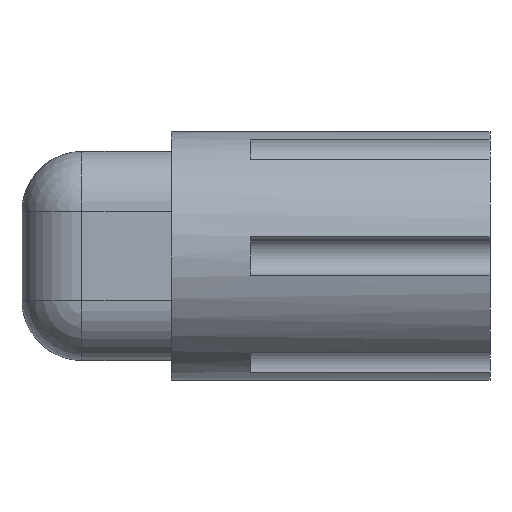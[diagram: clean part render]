
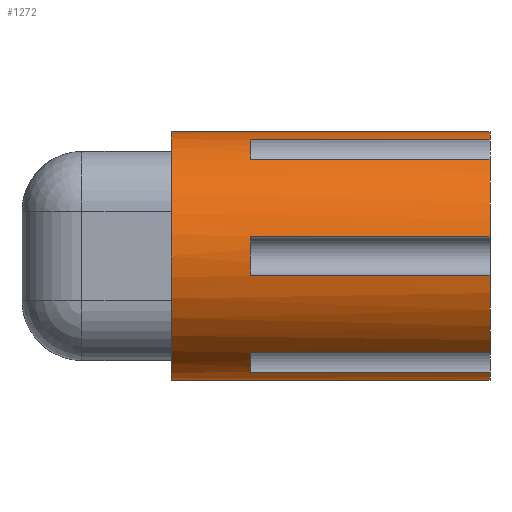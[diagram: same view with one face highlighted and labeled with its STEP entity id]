
A CAD part, front view. The second image highlights one B-rep face of the part: STEP entity #1272.
In plain terms, the highlighted cylindrical face has radius 9.906 mm (diameter 19.812 mm), a partial arc.
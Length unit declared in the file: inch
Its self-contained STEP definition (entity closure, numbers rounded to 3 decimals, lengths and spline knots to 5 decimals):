
#19 = LINE ( 'NONE', #909, #144 ) ;
#20 = VECTOR ( 'NONE', #1877, 39.37008 ) ;
#26 = LINE ( 'NONE', #1746, #295 ) ;
#38 = CIRCLE ( 'NONE', #1232, 0.39 ) ;
#75 = CYLINDRICAL_SURFACE ( 'NONE', #1545, 0.39 ) ;
#77 = VERTEX_POINT ( 'NONE', #512 ) ;
#94 = VECTOR ( 'NONE', #538, 39.37008 ) ;
#107 = VECTOR ( 'NONE', #1882, 39.37008 ) ;
#110 = LINE ( 'NONE', #1957, #139 ) ;
#132 = CIRCLE ( 'NONE', #1498, 0.39 ) ;
#136 = VECTOR ( 'NONE', #1890, 39.37008 ) ;
#139 = VECTOR ( 'NONE', #1929, 39.37008 ) ;
#140 = CIRCLE ( 'NONE', #1502, 0.39 ) ;
#141 = VERTEX_POINT ( 'NONE', #577 ) ;
#143 = VERTEX_POINT ( 'NONE', #689 ) ;
#144 = VECTOR ( 'NONE', #491, 39.37008 ) ;
#161 = VERTEX_POINT ( 'NONE', #662 ) ;
#165 = VERTEX_POINT ( 'NONE', #697 ) ;
#179 = VERTEX_POINT ( 'NONE', #640 ) ;
#181 = LINE ( 'NONE', #1795, #136 ) ;
#183 = CIRCLE ( 'NONE', #1252, 0.39 ) ;
#186 = CIRCLE ( 'NONE', #1477, 0.39 ) ;
#218 = LINE ( 'NONE', #1878, #20 ) ;
#219 = LINE ( 'NONE', #712, #94 ) ;
#228 = VECTOR ( 'NONE', #696, 39.37008 ) ;
#295 = VECTOR ( 'NONE', #1940, 39.37008 ) ;
#310 = LINE ( 'NONE', #1748, #107 ) ;
#316 = VERTEX_POINT ( 'NONE', #854 ) ;
#319 = VERTEX_POINT ( 'NONE', #849 ) ;
#338 = CIRCLE ( 'NONE', #1478, 0.39 ) ;
#342 = LINE ( 'NONE', #797, #228 ) ;
#364 = CIRCLE ( 'NONE', #1190, 0.39 ) ;
#373 = VERTEX_POINT ( 'NONE', #537 ) ;
#379 = FACE_OUTER_BOUND ( 'NONE', #892, .T. ) ;
#380 = CIRCLE ( 'NONE', #1474, 0.39 ) ;
#409 = DIRECTION ( 'NONE',  ( 1., 0., 0. ) ) ;
#410 = CARTESIAN_POINT ( 'NONE',  ( 0., 0., 0. ) ) ;
#419 = CARTESIAN_POINT ( 'NONE',  ( -1., 0., 0.39 ) ) ;
#421 = DIRECTION ( 'NONE',  ( 0., 0., -1. ) ) ;
#491 = DIRECTION ( 'NONE',  ( -1., 0., 0. ) ) ;
#512 = CARTESIAN_POINT ( 'NONE',  ( -0.75, -0.14003, 0.364 ) ) ;
#514 = CARTESIAN_POINT ( 'NONE',  ( -0.75, -0.14003, -0.364 ) ) ;
#537 = CARTESIAN_POINT ( 'NONE',  ( -0.75, -0.24522, -0.30326 ) ) ;
#538 = DIRECTION ( 'NONE',  ( 1., 0., 0. ) ) ;
#558 = DIRECTION ( 'NONE',  ( 0., 0., -1. ) ) ;
#568 = CARTESIAN_POINT ( 'NONE',  ( 0., 0., 0. ) ) ;
#577 = CARTESIAN_POINT ( 'NONE',  ( 0., 0., 0.39 ) ) ;
#624 = DIRECTION ( 'NONE',  ( 1., 0., 0. ) ) ;
#640 = CARTESIAN_POINT ( 'NONE',  ( -0.75, -0.38524, 0.06073 ) ) ;
#662 = CARTESIAN_POINT ( 'NONE',  ( -0.75, -0.24522, 0.30326 ) ) ;
#689 = CARTESIAN_POINT ( 'NONE',  ( 0., -0.24522, -0.30326 ) ) ;
#696 = DIRECTION ( 'NONE',  ( 1., 0., 0. ) ) ;
#697 = CARTESIAN_POINT ( 'NONE',  ( 0., 0., -0.39 ) ) ;
#707 = CARTESIAN_POINT ( 'NONE',  ( 0., -0.38524, 0.06073 ) ) ;
#708 = CARTESIAN_POINT ( 'NONE',  ( 0., -0.38524, -0.06073 ) ) ;
#712 = CARTESIAN_POINT ( 'NONE',  ( -0.375, -0.38524, -0.06073 ) ) ;
#716 = VERTEX_POINT ( 'NONE', #419 ) ;
#732 = ORIENTED_EDGE ( 'NONE', *, *, #1565, .T. ) ;
#744 = ORIENTED_EDGE ( 'NONE', *, *, #1414, .F. ) ;
#747 = VERTEX_POINT ( 'NONE', #955 ) ;
#796 = VERTEX_POINT ( 'NONE', #810 ) ;
#797 = CARTESIAN_POINT ( 'NONE',  ( -0.375, -0.24522, 0.30326 ) ) ;
#810 = CARTESIAN_POINT ( 'NONE',  ( 0., -0.24522, 0.30326 ) ) ;
#811 = ORIENTED_EDGE ( 'NONE', *, *, #1394, .T. ) ;
#848 = ORIENTED_EDGE ( 'NONE', *, *, #1404, .T. ) ;
#849 = CARTESIAN_POINT ( 'NONE',  ( -0.75, -0.38524, -0.06073 ) ) ;
#854 = CARTESIAN_POINT ( 'NONE',  ( 0., -0.14003, 0.364 ) ) ;
#887 = ORIENTED_EDGE ( 'NONE', *, *, #1432, .F. ) ;
#892 = EDGE_LOOP ( 'NONE', ( #1161, #848, #1132, #1020, #744, #999, #1128, #911, #946, #811, #1037, #1167, #1154, #732, #1068, #887 ) ) ;
#909 = CARTESIAN_POINT ( 'NONE',  ( -0.375, -0.24522, -0.30326 ) ) ;
#911 = ORIENTED_EDGE ( 'NONE', *, *, #1365, .F. ) ;
#920 = CARTESIAN_POINT ( 'NONE',  ( -1., 0., -0.39 ) ) ;
#929 = VERTEX_POINT ( 'NONE', #920 ) ;
#946 = ORIENTED_EDGE ( 'NONE', *, *, #1354, .F. ) ;
#955 = CARTESIAN_POINT ( 'NONE',  ( 0., -0.14003, -0.364 ) ) ;
#999 = ORIENTED_EDGE ( 'NONE', *, *, #1380, .T. ) ;
#1019 = VERTEX_POINT ( 'NONE', #514 ) ;
#1020 = ORIENTED_EDGE ( 'NONE', *, *, #1585, .F. ) ;
#1037 = ORIENTED_EDGE ( 'NONE', *, *, #1567, .F. ) ;
#1053 = VERTEX_POINT ( 'NONE', #707 ) ;
#1068 = ORIENTED_EDGE ( 'NONE', *, *, #1370, .F. ) ;
#1128 = ORIENTED_EDGE ( 'NONE', *, *, #1351, .F. ) ;
#1132 = ORIENTED_EDGE ( 'NONE', *, *, #1379, .T. ) ;
#1154 = ORIENTED_EDGE ( 'NONE', *, *, #1361, .F. ) ;
#1161 = ORIENTED_EDGE ( 'NONE', *, *, #1420, .F. ) ;
#1162 = VERTEX_POINT ( 'NONE', #708 ) ;
#1167 = ORIENTED_EDGE ( 'NONE', *, *, #1386, .F. ) ;
#1190 = AXIS2_PLACEMENT_3D ( 'NONE', #1688, #1678, #1681 ) ;
#1232 = AXIS2_PLACEMENT_3D ( 'NONE', #1862, #1951, #1716 ) ;
#1252 = AXIS2_PLACEMENT_3D ( 'NONE', #1920, #1953, #1702 ) ;
#1272 = ADVANCED_FACE ( 'NONE', ( #379 ), #75, .T. ) ;
#1351 = EDGE_CURVE ( 'NONE', #143, #373, #19, .T. ) ;
#1354 = EDGE_CURVE ( 'NONE', #319, #1162, #219, .T. ) ;
#1361 = EDGE_CURVE ( 'NONE', #161, #796, #342, .T. ) ;
#1365 = EDGE_CURVE ( 'NONE', #1162, #143, #140, .T. ) ;
#1370 = EDGE_CURVE ( 'NONE', #316, #77, #110, .T. ) ;
#1379 = EDGE_CURVE ( 'NONE', #929, #165, #218, .T. ) ;
#1380 = EDGE_CURVE ( 'NONE', #1019, #373, #186, .T. ) ;
#1386 = EDGE_CURVE ( 'NONE', #796, #1053, #132, .T. ) ;
#1394 = EDGE_CURVE ( 'NONE', #319, #179, #338, .T. ) ;
#1404 = EDGE_CURVE ( 'NONE', #716, #929, #380, .T. ) ;
#1414 = EDGE_CURVE ( 'NONE', #1019, #747, #26, .T. ) ;
#1420 = EDGE_CURVE ( 'NONE', #716, #141, #310, .T. ) ;
#1432 = EDGE_CURVE ( 'NONE', #141, #316, #364, .T. ) ;
#1474 = AXIS2_PLACEMENT_3D ( 'NONE', #1896, #1771, #1715 ) ;
#1477 = AXIS2_PLACEMENT_3D ( 'NONE', #1752, #1848, #1926 ) ;
#1478 = AXIS2_PLACEMENT_3D ( 'NONE', #1822, #1900, #1759 ) ;
#1498 = AXIS2_PLACEMENT_3D ( 'NONE', #1949, #1804, #1733 ) ;
#1502 = AXIS2_PLACEMENT_3D ( 'NONE', #410, #409, #421 ) ;
#1545 = AXIS2_PLACEMENT_3D ( 'NONE', #568, #624, #558 ) ;
#1565 = EDGE_CURVE ( 'NONE', #161, #77, #183, .T. ) ;
#1567 = EDGE_CURVE ( 'NONE', #1053, #179, #181, .T. ) ;
#1585 = EDGE_CURVE ( 'NONE', #747, #165, #38, .T. ) ;
#1678 = DIRECTION ( 'NONE',  ( 1., 0., 0. ) ) ;
#1681 = DIRECTION ( 'NONE',  ( 0., 0., -1. ) ) ;
#1688 = CARTESIAN_POINT ( 'NONE',  ( 0., 0., 0. ) ) ;
#1702 = DIRECTION ( 'NONE',  ( 0., 0., -1. ) ) ;
#1715 = DIRECTION ( 'NONE',  ( 0., 0., -1. ) ) ;
#1716 = DIRECTION ( 'NONE',  ( 0., 0., -1. ) ) ;
#1733 = DIRECTION ( 'NONE',  ( 0., 0., -1. ) ) ;
#1746 = CARTESIAN_POINT ( 'NONE',  ( -0.375, -0.14003, -0.364 ) ) ;
#1748 = CARTESIAN_POINT ( 'NONE',  ( 0., 0., 0.39 ) ) ;
#1752 = CARTESIAN_POINT ( 'NONE',  ( -0.75, 0., 0. ) ) ;
#1759 = DIRECTION ( 'NONE',  ( 0., 0., -1. ) ) ;
#1771 = DIRECTION ( 'NONE',  ( 1., 0., 0. ) ) ;
#1795 = CARTESIAN_POINT ( 'NONE',  ( -0.375, -0.38524, 0.06073 ) ) ;
#1804 = DIRECTION ( 'NONE',  ( 1., 0., 0. ) ) ;
#1822 = CARTESIAN_POINT ( 'NONE',  ( -0.75, 0., 0. ) ) ;
#1848 = DIRECTION ( 'NONE',  ( -1., 0., 0. ) ) ;
#1862 = CARTESIAN_POINT ( 'NONE',  ( 0., 0., 0. ) ) ;
#1877 = DIRECTION ( 'NONE',  ( 1., 0., 0. ) ) ;
#1878 = CARTESIAN_POINT ( 'NONE',  ( 0., 0., -0.39 ) ) ;
#1882 = DIRECTION ( 'NONE',  ( 1., 0., 0. ) ) ;
#1890 = DIRECTION ( 'NONE',  ( -1., 0., 0. ) ) ;
#1896 = CARTESIAN_POINT ( 'NONE',  ( -1., 0., 0. ) ) ;
#1900 = DIRECTION ( 'NONE',  ( -1., 0., 0. ) ) ;
#1920 = CARTESIAN_POINT ( 'NONE',  ( -0.75, 0., 0. ) ) ;
#1926 = DIRECTION ( 'NONE',  ( 0., 0., -1. ) ) ;
#1929 = DIRECTION ( 'NONE',  ( -1., 0., 0. ) ) ;
#1940 = DIRECTION ( 'NONE',  ( 1., 0., 0. ) ) ;
#1949 = CARTESIAN_POINT ( 'NONE',  ( 0., 0., 0. ) ) ;
#1951 = DIRECTION ( 'NONE',  ( 1., 0., 0. ) ) ;
#1953 = DIRECTION ( 'NONE',  ( -1., 0., 0. ) ) ;
#1957 = CARTESIAN_POINT ( 'NONE',  ( -0.375, -0.14003, 0.364 ) ) ;
